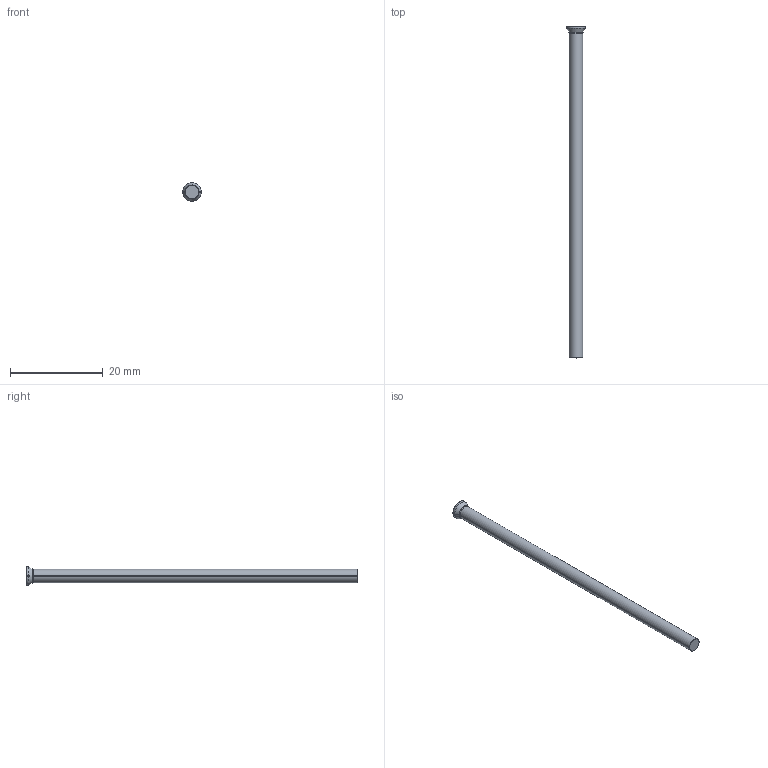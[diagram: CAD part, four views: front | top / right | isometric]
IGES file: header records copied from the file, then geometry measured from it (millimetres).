
Start section: SolidWorks IGES file using analytic representation for surfaces
Global section: file name: D:\Cleonir_arquivos\MT_15_07\Punções de Corte Tipo DA DIN 9861\PNDA02,9070H.igs; native system: SolidWorks 2013; preprocessor: SolidWorks 2013; author: Cleonir; date: 130731.204759; units: millimetre
Bounding box: 4 x 71.5 x 4 mm (x, y, z)
Surface area: 675.6 mm2 (no closed solid volume)
Topology: 0 solids, 0 shells, 313 faces, 1909 edges, 1909 vertices
Faces by surface type: bspline 299, revolution 14
